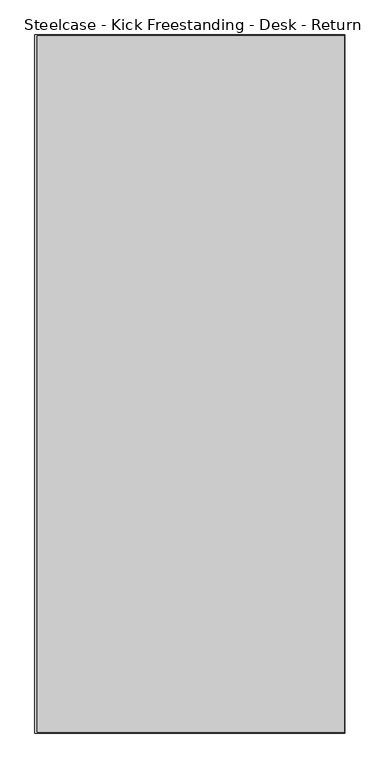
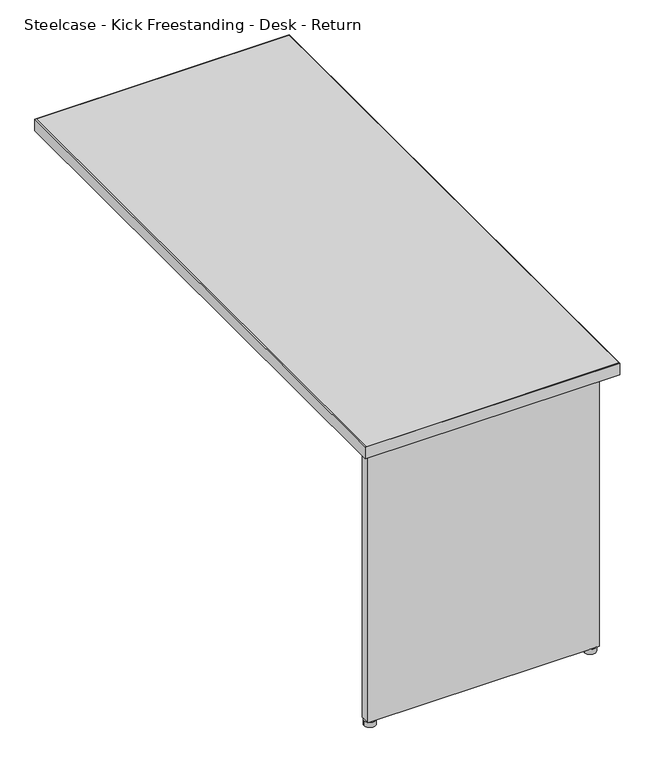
"""IFC4 building model written with IfcOpenShell, lengths in millimetres: furniture geometry, Steelcase - Kick Freestanding - Desk - Return : 24D x 54W - Right."""

import ifcopenshell
import ifcopenshell.guid

model = None  # the IFC model being written
_history = None  # IfcOwnerHistory: only IFC2X3 demands one
_inside = {}  # id of a spatial element -> (the spatial element, [elements in it])
_under = {}  # id of a project, library or spatial element -> (it, [spatial elements below it])
_declared = {}  # id of a project -> (the project, [libraries it declares])
_typed = {}  # id of a type object -> (the type object, [elements of that type])
_made_of = {}  # id of a material, layer set ... -> (it, [elements and type objects made of it])


def new_model(schema):
    """Start an empty IFC model of exactly this schema.

    Asked for "IFC4X3", IfcOpenShell would pick the latest addendum, in which some entities
    have other attributes; the version numbers below select the first issue.
    IFC2X3 requires an IfcOwnerHistory on every rooted entity: one is made here for all.
    """
    global model, _history
    if schema == "IFC4X3":
        model = ifcopenshell.file(schema_version=(4, 3, 0, 0))
    else:
        model = ifcopenshell.file(schema=schema)
    _inside.clear()
    _under.clear()
    _declared.clear()
    _typed.clear()
    _made_of.clear()
    _history = None
    if model.schema == "IFC2X3":
        org = make("IfcOrganization", Name="unknown")
        user = make(
            "IfcPersonAndOrganization",
            ThePerson=make("IfcPerson", FamilyName="unknown"),
            TheOrganization=org,
        )
        app = make(
            "IfcApplication",
            ApplicationDeveloper=org,
            Version="unknown",
            ApplicationFullName="unknown",
            ApplicationIdentifier="unknown",
        )
        _history = make(
            "IfcOwnerHistory",
            OwningUser=user,
            OwningApplication=app,
            ChangeAction="ADDED",
            CreationDate=0,
        )
    return model


def make(cls, **values):
    """One entity of the class cls with the attributes given. An attribute that is None is left unset."""
    return model.create_entity(
        cls, **{name: value for name, value in values.items() if value is not None}
    )


def rooted(cls, **values):
    """An entity with a GlobalId (a new one), such as an element, a storey or a relation."""
    return make(cls, GlobalId=ifcopenshell.guid.new(), OwnerHistory=_history, **values)


def si_unit(unit_type, name, prefix=None):
    """IfcSIUnit, for example si_unit("LENGTHUNIT", "METRE", prefix="MILLI")."""
    return make("IfcSIUnit", UnitType=unit_type, Prefix=prefix, Name=name)


def assignment(units):
    """IfcUnitAssignment: the units of a project."""
    return None if units is None else make("IfcUnitAssignment", Units=units)


def point(xyz):
    """IfcCartesianPoint."""
    return None if xyz is None else make("IfcCartesianPoint", Coordinates=xyz)


def direction(xyz):
    """IfcDirection."""
    return None if xyz is None else make("IfcDirection", DirectionRatios=xyz)


def frame(location, z_axis=None, x_axis=None):
    """IfcAxis2Placement3D, a coordinate frame: its origin and axes. An axis left out is left unset."""
    return make(
        "IfcAxis2Placement3D",
        Location=point(location),
        Axis=direction(z_axis),
        RefDirection=direction(x_axis),
    )


def frame_2d(location, x_axis=None):
    """IfcAxis2Placement2D, a coordinate frame in the plane: its origin and x axis."""
    return make(
        "IfcAxis2Placement2D", Location=point(location), RefDirection=direction(x_axis)
    )


def origin():
    """The frame at (0, 0, 0) with its axes left unset."""
    return frame((0.0, 0.0, 0.0))


def origin_with_axes():
    """The frame at (0, 0, 0) with the z axis (0, 0, 1) and the x axis (1, 0, 0) written out."""
    return frame((0.0, 0.0, 0.0), z_axis=(0.0, 0.0, 1.0), x_axis=(1.0, 0.0, 0.0))


def place(relative_to, where):
    """IfcLocalPlacement: puts the frame where relative to a parent placement (None: the world)."""
    return make(
        "IfcLocalPlacement", PlacementRelTo=relative_to, RelativePlacement=where
    )


def context(
    kind, dimensions, precision=None, world=None, true_north=None, identifier=None
):
    """IfcGeometricRepresentationContext, for example the 3D "Model" context."""
    return make(
        "IfcGeometricRepresentationContext",
        ContextIdentifier=identifier,
        ContextType=kind,
        CoordinateSpaceDimension=dimensions,
        Precision=precision,
        WorldCoordinateSystem=world,
        TrueNorth=true_north,
    )


def project(units=None, contexts=None):
    """IfcProject with its units and contexts."""
    return rooted(
        "IfcProject",
        Name="project",
        RepresentationContexts=contexts,
        UnitsInContext=assignment(units),
    )


def spatial(cls, under=None, at=None, **own):
    """A site, building, storey or space (cls), placed at a placement, below another one or the project."""
    s = rooted(cls, ObjectPlacement=at, **own)
    if under is not None:
        _under.setdefault(under.id(), (under, []))[1].append(s)
    return s


def polyline(points):
    """IfcPolyline through the points."""
    return make("IfcPolyline", Points=[point(p) for p in points])


def circle_curve(where, radius):
    """IfcCircle in the frame where."""
    return make("IfcCircle", Position=where, Radius=radius)


def trimmed(basis, trim1, trim2, sense, master):
    """IfcTrimmedCurve: the piece of a basis curve between two trims."""
    return make(
        "IfcTrimmedCurve",
        BasisCurve=basis,
        Trim1=trim1,
        Trim2=trim2,
        SenseAgreement=sense,
        MasterRepresentation=master,
    )


def segment(curve, same_sense, transition):
    """IfcCompositeCurveSegment."""
    return make(
        "IfcCompositeCurveSegment",
        Transition=transition,
        SameSense=same_sense,
        ParentCurve=curve,
    )


def composite_curve(segments, self_intersect=None):
    """IfcCompositeCurve: segments joined end to end."""
    return make("IfcCompositeCurve", Segments=segments, SelfIntersect=self_intersect)


def outline(outer, holes=None, kind="AREA"):
    """IfcArbitraryClosedProfileDef: a profile drawn as a closed curve; with holes, ...WithVoids."""
    if holes is None:
        return make("IfcArbitraryClosedProfileDef", ProfileType=kind, OuterCurve=outer)
    return make(
        "IfcArbitraryProfileDefWithVoids",
        ProfileType=kind,
        OuterCurve=outer,
        InnerCurves=holes,
    )


def extrude(swept, where, along, depth):
    """IfcExtrudedAreaSolid: the profile swept, set in the frame where, extruded along a direction by depth."""
    return make(
        "IfcExtrudedAreaSolid",
        SweptArea=swept,
        Position=where,
        ExtrudedDirection=direction(along),
        Depth=depth,
    )


def shape(context_of_items, identifier, shape_type, items):
    """IfcShapeRepresentation: the items that make up one representation, for example the "Body"."""
    return make(
        "IfcShapeRepresentation",
        ContextOfItems=context_of_items,
        RepresentationIdentifier=identifier,
        RepresentationType=shape_type,
        Items=items,
    )


def source(mapping_origin, context_of_items, identifier, shape_type, items):
    """IfcRepresentationMap: a shape defined once, which mapped items show again and again."""
    return make(
        "IfcRepresentationMap",
        MappingOrigin=mapping_origin,
        MappedRepresentation=shape(context_of_items, identifier, shape_type, items),
    )


def transform(
    local_origin,
    x_axis=None,
    y_axis=None,
    z_axis=None,
    scale=None,
    scale2=None,
    scale3=None,
    uniform=True,
):
    """IfcCartesianTransformationOperator3D, or its non-uniform kind. x_axis, y_axis, z_axis: its Axis1, 2, 3."""
    if uniform:
        return make(
            "IfcCartesianTransformationOperator3D",
            Axis1=direction(x_axis),
            Axis2=direction(y_axis),
            LocalOrigin=point(local_origin),
            Scale=scale,
            Axis3=direction(z_axis),
        )
    return make(
        "IfcCartesianTransformationOperator3DnonUniform",
        Axis1=direction(x_axis),
        Axis2=direction(y_axis),
        LocalOrigin=point(local_origin),
        Scale=scale,
        Axis3=direction(z_axis),
        Scale2=scale2,
        Scale3=scale3,
    )


def mapped(mapping_source, mapping_target):
    """IfcMappedItem: shows the shape of a source again, moved by a transform."""
    return make(
        "IfcMappedItem", MappingSource=mapping_source, MappingTarget=mapping_target
    )


def made_of(thing, what):
    """Note that an element or type object is made of a material, layer set ...; save() writes the relation."""
    if what is not None:
        _made_of.setdefault(what.id(), (what, []))[1].append(thing)
    return thing


def element(
    cls,
    number,
    at=None,
    inside=None,
    cuts=None,
    type_object=None,
    material=None,
    context=None,
    identifier="Body",
    shape_type=None,
    held_by="IfcProductDefinitionShape",
    body=None,
    shapes=None,
    **own,
):
    """One element of the class cls, such as IfcWall. Its Tag is "e" and its number.

    at: its placement. inside: the storey or other place that contains it. cuts: it is an
    opening in that element (IfcRelVoidsElement). A single representation is given by context,
    identifier, shape_type and body (its items); several are given by shapes. held_by: the class
    of the entity that holds the representations. save() writes the other relations.
    """
    e = rooted(cls, Tag="e%d" % number, ObjectPlacement=at, **own)
    if body is not None:
        shapes = [shape(context, identifier, shape_type, body)]
    if shapes is not None:
        e.Representation = make(held_by, Representations=shapes)
    if inside is not None:
        _inside.setdefault(inside.id(), (inside, []))[1].append(e)
    if cuts is not None:
        rooted(
            "IfcRelVoidsElement", RelatingBuildingElement=cuts, RelatedOpeningElement=e
        )
    if type_object is not None:
        _typed.setdefault(type_object.id(), (type_object, []))[1].append(e)
    return made_of(e, material)


def aggregate(whole, parts):
    """IfcRelAggregates: a whole, such as a stair, and the parts it consists of."""
    return rooted("IfcRelAggregates", RelatingObject=whole, RelatedObjects=parts)


def save(model, path):
    """Write the relations noted so far, then the file.

    IfcRelAggregates (storeys below a building ...), IfcRelContainedInSpatialStructure (elements
    in a storey), IfcRelDefinesByType, IfcRelAssociatesMaterial and IfcRelDeclares: one each for
    every whole, place, type object, material and project.
    """
    for whole, parts in _under.values():
        aggregate(whole, parts)
    for where, things in _inside.values():
        rooted(
            "IfcRelContainedInSpatialStructure",
            RelatedElements=things,
            RelatingStructure=where,
        )
    for kind, things in _typed.values():
        rooted("IfcRelDefinesByType", RelatedObjects=things, RelatingType=kind)
    for what, things in _made_of.values():
        rooted("IfcRelAssociatesMaterial", RelatedObjects=things, RelatingMaterial=what)
    for by, libraries in _declared.values():
        rooted("IfcRelDeclares", RelatingContext=by, RelatedDefinitions=libraries)
    model.write(path)


def steelcase_kick_freestanding_desk_return_39182915(model_context):
    return source(origin(), model_context, "Body", "SweptSolid", [
        extrude(outline(composite_curve([segment(trimmed(circle_curve(frame_2d((2107.4714425, -1893.0145152)), 13.97), [point((2121.4414425, -1893.0145152))], [point((2093.5014425, -1893.0145152))], False, "CARTESIAN"), True, "CONTINUOUS"), segment(trimmed(circle_curve(frame_2d((2107.4714425, -1893.0145152)), 13.97), [point((2093.5014425, -1893.0145152))], [point((2121.4414425, -1893.0145152))], False, "CARTESIAN"), True, "CONTINUOUS")], self_intersect=False)), origin_with_axes(), (0.0, 0.0, 1.0), 12.7),
        extrude(outline(composite_curve([segment(trimmed(circle_curve(frame_2d((1579.6594425, -1893.0145152)), 13.97), [point((1593.6294425, -1893.0145152))], [point((1565.6894425, -1893.0145152))], False, "CARTESIAN"), True, "CONTINUOUS"), segment(trimmed(circle_curve(frame_2d((1579.6594425, -1893.0145152)), 13.97), [point((1565.6894425, -1893.0145152))], [point((1593.6294425, -1893.0145152))], False, "CARTESIAN"), True, "CONTINUOUS")], self_intersect=False)), origin_with_axes(), (0.0, 0.0, 1.0), 12.7),
        extrude(outline(polyline([(2122.7114425, -1880.4669152), (2122.7114425, -1904.9525098), (1568.2294473, -1904.9525098), (1568.2294473, -1880.4669041), (1691.2670317, -1880.4669041), (1691.2670317, -1902.8951136), (1790.9874347, -1902.8951136), (1790.9874347, -1880.4669041), (1899.7248382, -1880.4669041), (1899.7248382, -1902.8951136), (1999.4452412, -1902.8951136), (1999.4452412, -1880.4669152), (2122.7114425, -1880.4669152)])), frame((0.0, 0.0, 12.7), z_axis=(0.0, 0.0, 1.0), x_axis=(1.0, 0.0, 0.0)), (0.0, 0.0, 1.0), 682.244),
        extrude(outline(polyline([(1558.5012257, -548.0845152), (2162.8688425, -548.0845152), (2162.8688425, -1917.1445152), (1558.5012257, -1917.1445152), (1558.5012257, -548.0845152)])), frame((0.0, 0.0, 694.944), z_axis=(0.0, 0.0, 1.0), x_axis=(1.0, 0.0, 0.0)), (0.0, 0.0, 1.0), 28.956),
        extrude(outline(polyline([(1554.2594425, -546.8145152), (2163.8594425, -546.8145152), (2163.8594425, -1918.4145152), (1554.2594425, -1918.4145152), (1554.2594425, -546.8145152)]), holes=[polyline([(1558.5012257, -548.0845152), (1558.5012257, -1917.1445152), (2162.8688425, -1917.1445152), (2162.8688425, -548.0845152), (1558.5012257, -548.0845152)])]), frame((0.0, 0.0, 694.944), z_axis=(0.0, 0.0, 1.0), x_axis=(1.0, 0.0, 0.0)), (0.0, 0.0, 1.0), 28.956),
    ])


if __name__ == "__main__":
    model = new_model("IFC4")
    model_context = context("Model", 3, world=origin())
    ifc_project = project(units=[si_unit("LENGTHUNIT", "METRE", prefix="MILLI")], contexts=[model_context])
    site = spatial("IfcSite", under=ifc_project)
    building = spatial("IfcBuilding", under=site)
    placement = place(None, origin())
    steelcase_kick_freestanding_desk_return_shape = steelcase_kick_freestanding_desk_return_39182915(model_context)
    element("IfcFurniture", 1, ObjectType="Steelcase - Kick Freestanding - Desk - Return : 24D x 54W - Right", at=placement, inside=building, context=model_context, shape_type="MappedRepresentation", body=[
        mapped(steelcase_kick_freestanding_desk_return_shape, transform((0.0, 0.0, 0.0), x_axis=(1.0, 0.0, 0.0), y_axis=(0.0, 1.0, 0.0), z_axis=(0.0, 0.0, 1.0))),
    ])
    save(model, "model.ifc")
